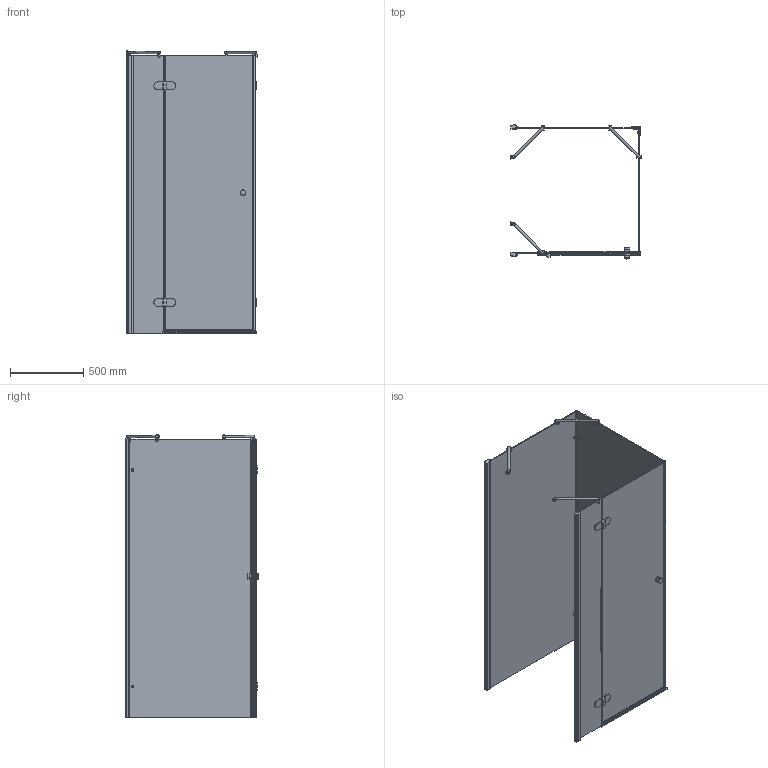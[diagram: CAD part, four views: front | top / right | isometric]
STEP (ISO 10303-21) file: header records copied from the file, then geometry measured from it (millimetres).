
FILE_DESCRIPTION(/* description */ (''),/* implementation_level */ '2;1');
FILE_NAME(/* name */ 'E:\Работа\Сергей\Душевые кабинки\! Работа\LUX SQUARE GK-104C\LUX SQUARE GK-104C левая модель\LUX SQUARE GK-104C ЛЕВАЯ-3D.stp',/* time_stamp */ '2018-02-23T08:54:12+03:00',/* author */ ('PC'),/* organization */ (''),/* preprocessor_version */ 'ST-DEVELOPER v15.2',/* originating_system */ 'Autodesk Inventor 2014',/* authorisation */ '');
FILE_SCHEMA (('AUTOMOTIVE_DESIGN { 1 0 10303 214 3 1 1 }'));
Length unit declared in the file: millimetre
Products named in the file (1): LUX SQUARE GK-104C ЛЕВАЯ-3D
Bounding box: 893 x 915.62 x 1931.5 mm (x, y, z)
Volume: 33615465.9 mm3; surface area: 10575349.9 mm2
Topology: 5 solids, 5 shells, 716 faces, 1819 edges, 1145 vertices
Faces by surface type: plane 470, cylinder 207, torus 15, sphere 12, bspline 8, cone 4
Full cylindrical faces by diameter (mm): 8 x4, 11 x4, 12 x4, 15 x3, 18 x4, 20 x6, 26 x2, 38 x4
Entity records: 22267 total; most frequent: CARTESIAN_POINT 4541, DIRECTION 3523, ORIENTED_EDGE 3456, EDGE_CURVE 1728, LINE 1205, VECTOR 1205, AXIS2_PLACEMENT_3D 1159, VERTEX_POINT 1105
